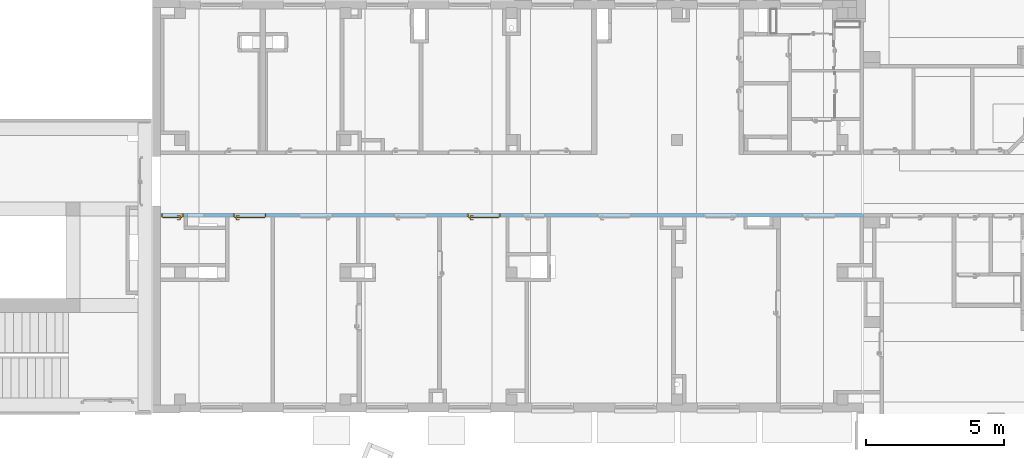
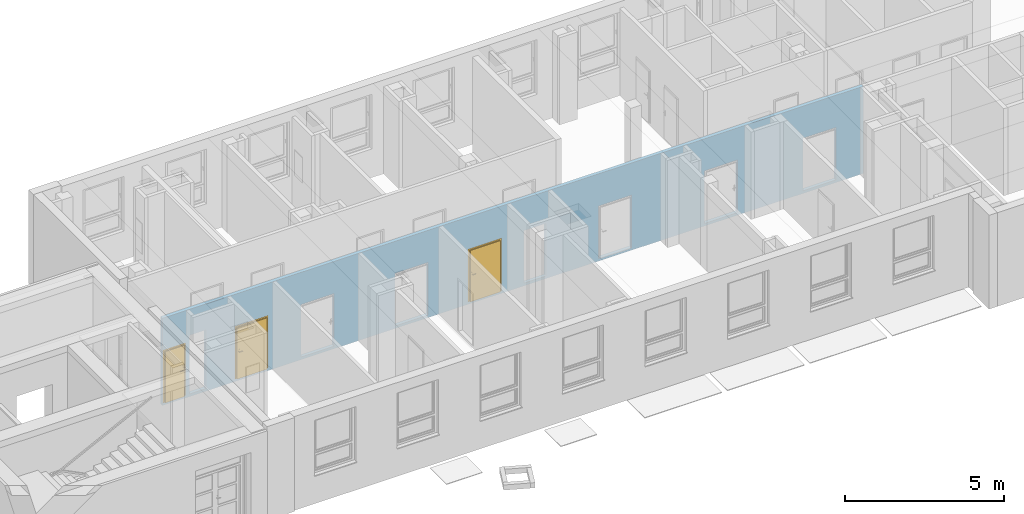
# One storey, part 20 of 140: 3 doors, 10 openings, plus 1 element that does not belong to this part.
"""IFC4 building model written with IfcOpenShell, lengths in metres."""

from ifc_helpers import new_model, entity, si_unit, converted_unit, derived_unit, frame, frame_2d, origin, origin_with_axes, place, context, subcontext, project, spatial, polyline, rectangle, outline, extrude, closed_shell, open_shell, surface_model, source, transform, mapped, material, layer, layer_set, layer_usage, type_object, element, fill, save


model = new_model("IFC4")

# Units and contexts
model_context = context("Model", 3, precision=1e-05, world=origin())
body_context = subcontext(model_context, "Body", "Model", "MODEL_VIEW")
ifc_project = project(units=[si_unit("LENGTHUNIT", "METRE"), si_unit("AREAUNIT", "SQUARE_METRE"), si_unit("VOLUMEUNIT", "CUBIC_METRE"), si_unit("MASSUNIT", "GRAM", prefix="KILO"), converted_unit("PLANEANGLEUNIT", "DEGREE", entity("IfcPlaneAngleMeasure", 0.0174532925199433), si_unit("PLANEANGLEUNIT", "RADIAN"), dimensions=[0, 0, 0, 0, 0, 0, 0]), derived_unit("THERMALTRANSMITTANCEUNIT", [(si_unit("POWERUNIT", "WATT"), 1), (si_unit("THERMODYNAMICTEMPERATUREUNIT", "KELVIN"), -1), (si_unit("LENGTHUNIT", "METRE"), -2)]), derived_unit("VOLUMETRICFLOWRATEUNIT", [(si_unit("LENGTHUNIT", "METRE"), 3), (converted_unit("TIMEUNIT", "hour", entity("IfcTimeMeasure", 3600.0), si_unit("TIMEUNIT", "SECOND"), dimensions=[0, 0, 1, 0, 0, 0, 0]), -1), (si_unit("LENGTHUNIT", "METRE"), -1)])], contexts=[model_context])

# Site, building, storey
site_placement = place(None, origin())
site = spatial("IfcSite", under=ifc_project, at=site_placement, Name="3. ASŘ", CompositionType="ELEMENT")
building_placement = place(site_placement, origin())
building = spatial("IfcBuilding", under=site, at=building_placement, Name="Pavilon C", CompositionType="ELEMENT")
storey_placement = place(building_placement, origin())
storey = spatial("IfcBuildingStorey", under=building, at=storey_placement, Name="Půdorys 1.NP", CompositionType="ELEMENT", Elevation=0.0)

# Wall, openings, doors
ifc_material = material(Name="ZDIVO Z CDm")
ifc_layer = layer(ifc_material, 0.125)
ifc_layer_set = layer_set([ifc_layer])
ifc_layer_usage = layer_usage(ifc_layer_set, "AXIS2", "POSITIVE", 0.0)
wall_placement = place(storey_placement, frame((24.75, 7.525, -0.1), z_axis=(0.0, 0.0, 1.0), x_axis=(-1.0, 0.0, 0.0)))
wall = element("IfcWall", 1, at=wall_placement, inside=storey, material=ifc_layer_usage, Name="ZDIVO Z CDm", context=body_context, shape_type="SweptSolid", body=[
    extrude(rectangle(XDim=25.45, YDim=0.125, at=frame_2d((12.725, 0.0625), x_axis=(1.0, 0.0))), origin_with_axes(), (0.0, 0.0, 1.0), 3.35),
])
opening_1_placement = place(wall_placement, frame((1.00000000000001, 0.0, 0.1), z_axis=(0.0, 1.0, 0.0), x_axis=(0.0, 0.0, 1.0)))
element("IfcOpeningElement", 2, at=opening_1_placement, cuts=wall, Name="Dveřní otvor", ObjectType="Opening", context=body_context, shape_type="SweptSolid", body=[
    extrude(outline(polyline([(0.0, 1.2), (2.02, 1.2), (2.02, 0.0), (0.0, 0.0), (0.0, 1.2)])), origin_with_axes(), (0.0, 0.0, 1.0), 0.125),
])
opening_2_placement = place(wall_placement, frame((5.77499999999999, 0.125, 0.1), z_axis=(0.0, -1.0, 0.0), x_axis=(0.0, 0.0, 1.0)))
element("IfcOpeningElement", 3, at=opening_2_placement, cuts=wall, Name="Dveřní otvor", ObjectType="Opening", context=body_context, shape_type="SweptSolid", body=[
    extrude(outline(polyline([(0.0, 1.2), (2.02, 1.2), (2.02, 0.0), (0.0, 0.0), (0.0, 1.2)])), origin_with_axes(), (0.0, 0.0, 1.0), 0.125),
])
opening_3_placement = place(wall_placement, frame((17.005, 0.125, 0.1), z_axis=(0.0, -1.0, 0.0), x_axis=(0.0, 0.0, 1.0)))
element("IfcOpeningElement", 4, at=opening_3_placement, cuts=wall, Name="Dveřní otvor", ObjectType="Opening", context=body_context, shape_type="SweptSolid", body=[
    extrude(outline(polyline([(0.0, 1.2), (2.02, 1.2), (2.02, 0.0), (0.0, 0.0), (0.0, 1.2)])), origin_with_axes(), (0.0, 0.0, 1.0), 0.125),
])
opening_4_placement = place(wall_placement, frame((20.43, 0.125, 0.1), z_axis=(0.0, -1.0, 0.0), x_axis=(0.0, 0.0, 1.0)))
element("IfcOpeningElement", 5, at=opening_4_placement, cuts=wall, Name="Dveřní otvor", ObjectType="Opening", context=body_context, shape_type="SweptSolid", body=[
    extrude(outline(polyline([(0.0, 1.2), (2.02, 1.2), (2.02, 0.0), (0.0, 0.0), (0.0, 1.2)])), origin_with_axes(), (0.0, 0.0, 1.0), 0.125),
])
opening_5_placement = place(wall_placement, frame((23.88, 0.0, 0.1), z_axis=(0.0, 1.0, 0.0), x_axis=(0.0, 0.0, 1.0)))
element("IfcOpeningElement", 6, at=opening_5_placement, cuts=wall, Name="Dveřní otvor", ObjectType="Opening", context=body_context, shape_type="SweptSolid", body=[
    extrude(outline(polyline([(0.0, 0.6), (2.25, 0.6), (2.25, 0.0), (0.0, 0.0), (0.0, 0.6)])), origin_with_axes(), (0.0, 0.0, 1.0), 0.125),
])
opening_6_placement = place(wall_placement, frame((24.625, 0.0, 0.1), z_axis=(0.0, 1.0, 0.0), x_axis=(0.0, 0.0, 1.0)))
opening_6 = element("IfcOpeningElement", 7, at=opening_6_placement, cuts=wall, Name="Dveřní otvor", ObjectType="Opening", context=body_context, shape_type="SweptSolid", body=[
    extrude(outline(polyline([(0.0, 0.8), (2.02, 0.8), (2.02, 0.0), (0.0, 0.0), (0.0, 0.8)])), origin_with_axes(), (0.0, 0.0, 1.0), 0.125),
])
opening_7_placement = place(wall_placement, frame((21.625, 0.0, 0.1), z_axis=(0.0, 1.0, 0.0), x_axis=(0.0, 0.0, 1.0)))
opening_7 = element("IfcOpeningElement", 8, at=opening_7_placement, cuts=wall, Name="Dveřní otvor", ObjectType="Opening", context=body_context, shape_type="SweptSolid", body=[
    extrude(outline(polyline([(0.0, 1.2), (2.02, 1.2), (2.02, 0.0), (0.0, 0.0), (0.0, 1.2)])), origin_with_axes(), (0.0, 0.0, 1.0), 0.125),
])
opening_8_placement = place(wall_placement, frame((13.15, 0.0, 0.1), z_axis=(0.0, 1.0, 0.0), x_axis=(0.0, 0.0, 1.0)))
opening_8 = element("IfcOpeningElement", 9, at=opening_8_placement, cuts=wall, Name="Dveřní otvor", ObjectType="Opening", context=body_context, shape_type="SweptSolid", body=[
    extrude(outline(polyline([(0.0, 1.2), (2.02, 1.2), (2.02, 0.0), (0.0, 0.0), (0.0, 1.2)])), origin_with_axes(), (0.0, 0.0, 1.0), 0.125),
])
opening_9_placement = place(wall_placement, frame((11.525, 0.0, 0.1), z_axis=(0.0, 1.0, 0.0), x_axis=(0.0, 0.0, 1.0)))
element("IfcOpeningElement", 10, at=opening_9_placement, cuts=wall, Name="Dveřní otvor", ObjectType="Opening", context=body_context, shape_type="SweptSolid", body=[
    extrude(outline(polyline([(0.0, 0.8), (2.02, 0.8), (2.02, 0.0), (0.0, 0.0), (0.0, 0.8)])), origin_with_axes(), (0.0, 0.0, 1.0), 0.125),
])
opening_10_placement = place(wall_placement, frame((8.425, 0.0, 0.1), z_axis=(0.0, 1.0, 0.0), x_axis=(0.0, 0.0, 1.0)))
element("IfcOpeningElement", 11, at=opening_10_placement, cuts=wall, Name="Dveřní otvor", ObjectType="Opening", context=body_context, shape_type="SweptSolid", body=[
    extrude(outline(polyline([(0.0, 1.2), (2.02, 1.2), (2.02, 0.0), (0.0, 0.0), (0.0, 1.2)])), origin_with_axes(), (0.0, 0.0, 1.0), 0.125),
])
door_type_1 = type_object("IfcDoorType", Name="D101", OperationType="NOTDEFINED", ParameterTakesPrecedence=False, PredefinedType="DOOR")
shared_shape_1 = source(origin_with_axes(), body_context, "Body", "SurfaceModel", [
    surface_model("IfcShellBasedSurfaceModel", [(0.0, 0.125, 2.02), (0.0, 0.125, -7.65404249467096e-18), (0.05, 0.125, -7.65404249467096e-18), (0.05, 0.125, 2.02), (0.0, 0.0, 7.65404249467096e-18), (0.0, 2.41584530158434e-16, 2.02), (0.05, 2.41584530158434e-16, 2.02), (0.05, 0.0, 7.65404249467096e-18)], [closed_shell([[[0, 1, 2, 3]], [[4, 5, 6, 7]], [[1, 0, 5, 4]], [[2, 1, 4, 7]], [[3, 2, 7, 6]], [[0, 3, 6, 5]]], orient=[[False], [False], [False], [False], [False], [False]])]),
    surface_model("IfcShellBasedSurfaceModel", [(0.75, 0.125, 2.02), (0.75, 0.125, -7.65404249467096e-18), (0.8, 0.125, -7.65404249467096e-18), (0.8, 0.125, 2.02), (0.75, 0.0, 7.65404249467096e-18), (0.75, 2.41584530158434e-16, 2.02), (0.8, 2.41584530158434e-16, 2.02), (0.8, 0.0, 7.65404249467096e-18)], [closed_shell([[[0, 1, 2, 3]], [[4, 5, 6, 7]], [[1, 0, 5, 4]], [[2, 1, 4, 7]], [[3, 2, 7, 6]], [[0, 3, 6, 5]]], orient=[[False], [False], [False], [False], [False], [False]])]),
    surface_model("IfcShellBasedSurfaceModel", [(0.05, 0.125, 2.02), (0.05, 0.125, 1.97), (0.75, 0.125, 1.97), (0.75, 0.125, 2.02), (0.05, 2.41584530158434e-16, 1.97), (0.05, 2.41584530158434e-16, 2.02), (0.75, 2.41584530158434e-16, 2.02), (0.75, 2.41584530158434e-16, 1.97)], [closed_shell([[[0, 1, 2, 3]], [[4, 5, 6, 7]], [[1, 0, 5, 4]], [[2, 1, 4, 7]], [[3, 2, 7, 6]], [[0, 3, 6, 5]]], orient=[[False], [False], [False], [False], [False], [False]])]),
    surface_model("IfcShellBasedSurfaceModel", [(0.05, 0.165, 1.97), (0.05, 0.165, -1.25526296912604e-17), (0.75, 0.165, -1.25526296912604e-17), (0.75, 0.165, 1.97), (0.05, 0.125, -7.65404249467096e-18), (0.05, 0.125, 1.97), (0.75, 0.125, 1.97), (0.75, 0.125, -7.65404249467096e-18)], [closed_shell([[[0, 1, 2, 3]], [[4, 5, 6, 7]], [[1, 0, 5, 4]], [[2, 1, 4, 7]], [[3, 2, 7, 6]], [[0, 3, 6, 5]]], orient=[[False], [False], [False], [False], [False], [False]])]),
    surface_model("IfcShellBasedSurfaceModel", [(0.66, 0.125, 1.125), (0.66, 0.125, 0.91), (0.71, 0.125, 0.91), (0.71, 0.125, 1.125), (0.66, 0.115, 0.91), (0.66, 0.115, 1.125), (0.71, 0.115, 1.125), (0.71, 0.115, 0.91)], [closed_shell([[[0, 1, 2, 3]], [[4, 5, 6, 7]], [[1, 0, 5, 4]], [[2, 1, 4, 7]], [[3, 2, 7, 6]], [[0, 3, 6, 5]]], orient=[[False], [False], [False], [False], [False], [False]])]),
    surface_model("IfcShellBasedSurfaceModel", [(0.685, 0.115, 1.06), (0.68, 0.115, 1.05866025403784), (0.676339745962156, 0.115, 1.055), (0.675, 0.115, 1.05), (0.676339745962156, 0.115, 1.045), (0.68, 0.115, 1.04133974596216), (0.685, 0.115, 1.04), (0.69, 0.115, 1.04133974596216), (0.693660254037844, 0.115, 1.045), (0.695, 0.115, 1.05), (0.693660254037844, 0.115, 1.055), (0.69, 0.115, 1.05866025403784), (0.69, 0.0700000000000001, 1.05866025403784), (0.685, 0.0750000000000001, 1.06), (0.693660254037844, 0.0663397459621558, 1.055), (0.695, 0.0650000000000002, 1.05), (0.693660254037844, 0.0663397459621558, 1.045), (0.69, 0.0700000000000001, 1.04133974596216), (0.685, 0.0750000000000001, 1.04), (0.68, 0.0800000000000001, 1.04133974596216), (0.676339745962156, 0.0836602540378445, 1.045), (0.675, 0.0850000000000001, 1.05), (0.676339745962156, 0.0836602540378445, 1.055), (0.68, 0.0800000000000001, 1.05866025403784), (0.57, 0.0700000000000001, 1.05866025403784), (0.57, 0.0750000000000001, 1.06), (0.57, 0.0663397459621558, 1.055), (0.57, 0.0650000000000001, 1.05), (0.57, 0.0663397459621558, 1.045), (0.57, 0.0700000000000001, 1.04133974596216), (0.57, 0.0750000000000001, 1.04), (0.57, 0.0800000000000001, 1.04133974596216), (0.57, 0.0836602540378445, 1.045), (0.57, 0.0850000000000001, 1.05), (0.57, 0.0836602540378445, 1.055), (0.57, 0.0800000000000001, 1.05866025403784)], [open_shell([[[0, 1, 2, 3, 4, 5, 6, 7, 8, 9, 10, 11]], [[0, 11, 12, 13]], [[11, 10, 14, 12]], [[10, 9, 15, 14]], [[9, 8, 16, 15]], [[8, 7, 17, 16]], [[7, 6, 18, 17]], [[6, 5, 19, 18]], [[5, 4, 20, 19]], [[4, 3, 21, 20]], [[3, 2, 22, 21]], [[2, 1, 23, 22]], [[1, 0, 13, 23]], [[13, 12, 24, 25]], [[12, 14, 26, 24]], [[14, 15, 27, 26]], [[15, 16, 28, 27]], [[16, 17, 29, 28]], [[17, 18, 30, 29]], [[18, 19, 31, 30]], [[19, 20, 32, 31]], [[20, 21, 33, 32]], [[21, 22, 34, 33]], [[22, 23, 35, 34]], [[23, 13, 25, 35]]], orient=[[False], [False], [False], [False], [False], [False], [False], [False], [False], [False], [False], [False], [False], [False], [False], [False], [False], [False], [False], [False], [False], [False], [False], [False], [False]])]),
    surface_model("IfcShellBasedSurfaceModel", [(0.66, 0.165, 1.125), (0.71, 0.165, 1.125), (0.71, 0.165, 0.91), (0.66, 0.165, 0.91), (0.66, 0.175, 0.91), (0.71, 0.175, 0.91), (0.71, 0.175, 1.125), (0.66, 0.175, 1.125)], [closed_shell([[[0, 1, 2, 3]], [[4, 5, 6, 7]], [[3, 4, 7, 0]], [[2, 5, 4, 3]], [[1, 6, 5, 2]], [[0, 7, 6, 1]]], orient=[[False], [False], [False], [False], [False], [False]])]),
    surface_model("IfcShellBasedSurfaceModel", [(0.685, 0.175, 1.06), (0.69, 0.175, 1.05866025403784), (0.693660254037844, 0.175, 1.055), (0.695, 0.175, 1.05), (0.693660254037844, 0.175, 1.045), (0.69, 0.175, 1.04133974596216), (0.685, 0.175, 1.04), (0.68, 0.175, 1.04133974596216), (0.676339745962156, 0.175, 1.045), (0.675, 0.175, 1.05), (0.676339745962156, 0.175, 1.055), (0.68, 0.175, 1.05866025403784), (0.685, 0.215, 1.06), (0.69, 0.22, 1.05866025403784), (0.693660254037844, 0.223660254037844, 1.055), (0.695, 0.225, 1.05), (0.693660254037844, 0.223660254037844, 1.045), (0.69, 0.22, 1.04133974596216), (0.685, 0.215, 1.04), (0.68, 0.21, 1.04133974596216), (0.676339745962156, 0.206339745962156, 1.045), (0.675, 0.205, 1.05), (0.676339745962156, 0.206339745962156, 1.055), (0.68, 0.21, 1.05866025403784), (0.57, 0.215, 1.06), (0.57, 0.22, 1.05866025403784), (0.57, 0.223660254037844, 1.055), (0.57, 0.225, 1.05), (0.57, 0.223660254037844, 1.045), (0.57, 0.22, 1.04133974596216), (0.57, 0.215, 1.04), (0.57, 0.21, 1.04133974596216), (0.57, 0.206339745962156, 1.045), (0.57, 0.205, 1.05), (0.57, 0.206339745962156, 1.055), (0.57, 0.21, 1.05866025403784)], [open_shell([[[0, 1, 2, 3, 4, 5, 6, 7, 8, 9, 10, 11]], [[0, 12, 13, 1]], [[1, 13, 14, 2]], [[2, 14, 15, 3]], [[3, 15, 16, 4]], [[4, 16, 17, 5]], [[5, 17, 18, 6]], [[6, 18, 19, 7]], [[7, 19, 20, 8]], [[8, 20, 21, 9]], [[9, 21, 22, 10]], [[10, 22, 23, 11]], [[11, 23, 12, 0]], [[12, 24, 25, 13]], [[13, 25, 26, 14]], [[14, 26, 27, 15]], [[15, 27, 28, 16]], [[16, 28, 29, 17]], [[17, 29, 30, 18]], [[18, 30, 31, 19]], [[19, 31, 32, 20]], [[20, 32, 33, 21]], [[21, 33, 34, 22]], [[22, 34, 35, 23]], [[23, 35, 24, 12]]], orient=[[False], [False], [False], [False], [False], [False], [False], [False], [False], [False], [False], [False], [False], [False], [False], [False], [False], [False], [False], [False], [False], [False], [False], [False], [False]])]),
])
door_1_placement = place(opening_6_placement, frame((0.0, 0.8, 0.0), z_axis=(1.0, 0.0, 0.0), x_axis=(0.0, -1.0, 1.22464679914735e-16)))
door_1 = element("IfcDoor", 12, at=door_1_placement, inside=storey, type_object=door_type_1, Name="D101", OverallHeight=2.02, OverallWidth=0.8, context=body_context, shape_type="MappedRepresentation", body=[
    mapped(shared_shape_1, transform((0.0, 0.0, 0.0), x_axis=(1.0, 0.0, 0.0), y_axis=(0.0, -1.0, 0.0), z_axis=(0.0, 0.0, 1.0), scale=1.0)),
])
fill(opening_6, door_1)
door_type_2 = type_object("IfcDoorType", Name="D101", OperationType="NOTDEFINED", ParameterTakesPrecedence=False, PredefinedType="DOOR")
shared_shape_2 = source(origin_with_axes(), body_context, "Body", "SurfaceModel", [
    surface_model("IfcShellBasedSurfaceModel", [(0.0, 0.125, 2.02), (0.0, 0.125, -7.65404249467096e-18), (0.05, 0.125, -7.65404249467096e-18), (0.05, 0.125, 2.02), (0.0, 0.0, 7.65404249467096e-18), (0.0, 2.41584530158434e-16, 2.02), (0.05, 2.41584530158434e-16, 2.02), (0.05, 0.0, 7.65404249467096e-18)], [closed_shell([[[0, 1, 2, 3]], [[4, 5, 6, 7]], [[1, 0, 5, 4]], [[2, 1, 4, 7]], [[3, 2, 7, 6]], [[0, 3, 6, 5]]], orient=[[False], [False], [False], [False], [False], [False]])]),
    surface_model("IfcShellBasedSurfaceModel", [(1.15, 0.125, 2.02), (1.15, 0.125, -7.65404249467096e-18), (1.2, 0.125, -7.65404249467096e-18), (1.2, 0.125, 2.02), (1.15, 0.0, 7.65404249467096e-18), (1.15, 2.41584530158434e-16, 2.02), (1.2, 2.41584530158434e-16, 2.02), (1.2, 0.0, 7.65404249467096e-18)], [closed_shell([[[0, 1, 2, 3]], [[4, 5, 6, 7]], [[1, 0, 5, 4]], [[2, 1, 4, 7]], [[3, 2, 7, 6]], [[0, 3, 6, 5]]], orient=[[False], [False], [False], [False], [False], [False]])]),
    surface_model("IfcShellBasedSurfaceModel", [(0.05, 0.125, 2.02), (0.05, 0.125, 1.97), (1.15, 0.125, 1.97), (1.15, 0.125, 2.02), (0.05, 2.41584530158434e-16, 1.97), (0.05, 2.41584530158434e-16, 2.02), (1.15, 2.41584530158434e-16, 2.02), (1.15, 2.41584530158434e-16, 1.97)], [closed_shell([[[0, 1, 2, 3]], [[4, 5, 6, 7]], [[1, 0, 5, 4]], [[2, 1, 4, 7]], [[3, 2, 7, 6]], [[0, 3, 6, 5]]], orient=[[False], [False], [False], [False], [False], [False]])]),
    surface_model("IfcShellBasedSurfaceModel", [(0.05, 0.165, 1.97), (0.05, 0.165, -1.25526296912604e-17), (1.15, 0.165, -1.25526296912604e-17), (1.15, 0.165, 1.97), (0.05, 0.125, -7.65404249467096e-18), (0.05, 0.125, 1.97), (1.15, 0.125, 1.97), (1.15, 0.125, -7.65404249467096e-18)], [closed_shell([[[0, 1, 2, 3]], [[4, 5, 6, 7]], [[1, 0, 5, 4]], [[2, 1, 4, 7]], [[3, 2, 7, 6]], [[0, 3, 6, 5]]], orient=[[False], [False], [False], [False], [False], [False]])]),
    surface_model("IfcShellBasedSurfaceModel", [(1.06, 0.125, 1.125), (1.06, 0.125, 0.91), (1.11, 0.125, 0.91), (1.11, 0.125, 1.125), (1.06, 0.115, 0.91), (1.06, 0.115, 1.125), (1.11, 0.115, 1.125), (1.11, 0.115, 0.91)], [closed_shell([[[0, 1, 2, 3]], [[4, 5, 6, 7]], [[1, 0, 5, 4]], [[2, 1, 4, 7]], [[3, 2, 7, 6]], [[0, 3, 6, 5]]], orient=[[False], [False], [False], [False], [False], [False]])]),
    surface_model("IfcShellBasedSurfaceModel", [(1.085, 0.115, 1.06), (1.08, 0.115, 1.05866025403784), (1.07633974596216, 0.115, 1.055), (1.075, 0.115, 1.05), (1.07633974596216, 0.115, 1.045), (1.08, 0.115, 1.04133974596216), (1.085, 0.115, 1.04), (1.09, 0.115, 1.04133974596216), (1.09366025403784, 0.115, 1.045), (1.095, 0.115, 1.05), (1.09366025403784, 0.115, 1.055), (1.09, 0.115, 1.05866025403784), (1.09, 0.0700000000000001, 1.05866025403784), (1.085, 0.0750000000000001, 1.06), (1.09366025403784, 0.0663397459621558, 1.055), (1.095, 0.0650000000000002, 1.05), (1.09366025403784, 0.0663397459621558, 1.045), (1.09, 0.0700000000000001, 1.04133974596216), (1.085, 0.0750000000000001, 1.04), (1.08, 0.0800000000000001, 1.04133974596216), (1.07633974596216, 0.0836602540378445, 1.045), (1.075, 0.0850000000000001, 1.05), (1.07633974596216, 0.0836602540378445, 1.055), (1.08, 0.0800000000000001, 1.05866025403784), (0.97, 0.0700000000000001, 1.05866025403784), (0.97, 0.0750000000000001, 1.06), (0.97, 0.0663397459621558, 1.055), (0.97, 0.0650000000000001, 1.05), (0.97, 0.0663397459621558, 1.045), (0.97, 0.0700000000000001, 1.04133974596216), (0.97, 0.0750000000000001, 1.04), (0.97, 0.0800000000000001, 1.04133974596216), (0.97, 0.0836602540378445, 1.045), (0.97, 0.0850000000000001, 1.05), (0.97, 0.0836602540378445, 1.055), (0.97, 0.0800000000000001, 1.05866025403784)], [open_shell([[[0, 1, 2, 3, 4, 5, 6, 7, 8, 9, 10, 11]], [[0, 11, 12, 13]], [[11, 10, 14, 12]], [[10, 9, 15, 14]], [[9, 8, 16, 15]], [[8, 7, 17, 16]], [[7, 6, 18, 17]], [[6, 5, 19, 18]], [[5, 4, 20, 19]], [[4, 3, 21, 20]], [[3, 2, 22, 21]], [[2, 1, 23, 22]], [[1, 0, 13, 23]], [[13, 12, 24, 25]], [[12, 14, 26, 24]], [[14, 15, 27, 26]], [[15, 16, 28, 27]], [[16, 17, 29, 28]], [[17, 18, 30, 29]], [[18, 19, 31, 30]], [[19, 20, 32, 31]], [[20, 21, 33, 32]], [[21, 22, 34, 33]], [[22, 23, 35, 34]], [[23, 13, 25, 35]]], orient=[[False], [False], [False], [False], [False], [False], [False], [False], [False], [False], [False], [False], [False], [False], [False], [False], [False], [False], [False], [False], [False], [False], [False], [False], [False]])]),
    surface_model("IfcShellBasedSurfaceModel", [(1.06, 0.165, 1.125), (1.11, 0.165, 1.125), (1.11, 0.165, 0.91), (1.06, 0.165, 0.91), (1.06, 0.175, 0.91), (1.11, 0.175, 0.91), (1.11, 0.175, 1.125), (1.06, 0.175, 1.125)], [closed_shell([[[0, 1, 2, 3]], [[4, 5, 6, 7]], [[3, 4, 7, 0]], [[2, 5, 4, 3]], [[1, 6, 5, 2]], [[0, 7, 6, 1]]], orient=[[False], [False], [False], [False], [False], [False]])]),
    surface_model("IfcShellBasedSurfaceModel", [(1.085, 0.175, 1.06), (1.09, 0.175, 1.05866025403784), (1.09366025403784, 0.175, 1.055), (1.095, 0.175, 1.05), (1.09366025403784, 0.175, 1.045), (1.09, 0.175, 1.04133974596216), (1.085, 0.175, 1.04), (1.08, 0.175, 1.04133974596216), (1.07633974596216, 0.175, 1.045), (1.075, 0.175, 1.05), (1.07633974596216, 0.175, 1.055), (1.08, 0.175, 1.05866025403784), (1.085, 0.215, 1.06), (1.09, 0.22, 1.05866025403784), (1.09366025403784, 0.223660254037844, 1.055), (1.095, 0.225, 1.05), (1.09366025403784, 0.223660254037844, 1.045), (1.09, 0.22, 1.04133974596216), (1.085, 0.215, 1.04), (1.08, 0.21, 1.04133974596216), (1.07633974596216, 0.206339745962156, 1.045), (1.075, 0.205, 1.05), (1.07633974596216, 0.206339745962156, 1.055), (1.08, 0.21, 1.05866025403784), (0.97, 0.215, 1.06), (0.97, 0.22, 1.05866025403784), (0.97, 0.223660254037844, 1.055), (0.97, 0.225, 1.05), (0.97, 0.223660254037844, 1.045), (0.97, 0.22, 1.04133974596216), (0.97, 0.215, 1.04), (0.97, 0.21, 1.04133974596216), (0.97, 0.206339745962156, 1.045), (0.97, 0.205, 1.05), (0.97, 0.206339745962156, 1.055), (0.97, 0.21, 1.05866025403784)], [open_shell([[[0, 1, 2, 3, 4, 5, 6, 7, 8, 9, 10, 11]], [[0, 12, 13, 1]], [[1, 13, 14, 2]], [[2, 14, 15, 3]], [[3, 15, 16, 4]], [[4, 16, 17, 5]], [[5, 17, 18, 6]], [[6, 18, 19, 7]], [[7, 19, 20, 8]], [[8, 20, 21, 9]], [[9, 21, 22, 10]], [[10, 22, 23, 11]], [[11, 23, 12, 0]], [[12, 24, 25, 13]], [[13, 25, 26, 14]], [[14, 26, 27, 15]], [[15, 27, 28, 16]], [[16, 28, 29, 17]], [[17, 29, 30, 18]], [[18, 30, 31, 19]], [[19, 31, 32, 20]], [[20, 32, 33, 21]], [[21, 33, 34, 22]], [[22, 34, 35, 23]], [[23, 35, 24, 12]]], orient=[[False], [False], [False], [False], [False], [False], [False], [False], [False], [False], [False], [False], [False], [False], [False], [False], [False], [False], [False], [False], [False], [False], [False], [False], [False]])]),
])
door_2_placement = place(opening_7_placement, frame((0.0, 0.0, 0.0), z_axis=(1.0, 0.0, 0.0), x_axis=(0.0, 1.0, -1.22464679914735e-16)))
door_2 = element("IfcDoor", 13, at=door_2_placement, inside=storey, type_object=door_type_2, Name="D101", OverallHeight=2.02, OverallWidth=1.2, context=body_context, shape_type="MappedRepresentation", body=[
    mapped(shared_shape_2, transform((0.0, 0.0, 0.0), x_axis=(1.0, 0.0, 0.0), y_axis=(0.0, 1.0, 0.0), z_axis=(0.0, 0.0, 1.0), scale=1.0)),
])
fill(opening_7, door_2)
door_type_3 = type_object("IfcDoorType", Name="D101", OperationType="NOTDEFINED", ParameterTakesPrecedence=False, PredefinedType="DOOR")
door_3_placement = place(opening_8_placement, frame((0.0, -1.81898940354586e-15, 0.0), z_axis=(1.0, 0.0, 0.0), x_axis=(0.0, 1.0, -1.22464679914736e-16)))
door_3 = element("IfcDoor", 14, at=door_3_placement, inside=storey, type_object=door_type_3, Name="D101", OverallHeight=2.02, OverallWidth=1.2, context=body_context, shape_type="MappedRepresentation", body=[
    mapped(shared_shape_2, transform((0.0, 0.0, 0.0), x_axis=(1.0, 0.0, 0.0), y_axis=(0.0, 1.0, 0.0), z_axis=(0.0, 0.0, 1.0), scale=1.0)),
])
fill(opening_8, door_3)

save(model, "model.ifc")
